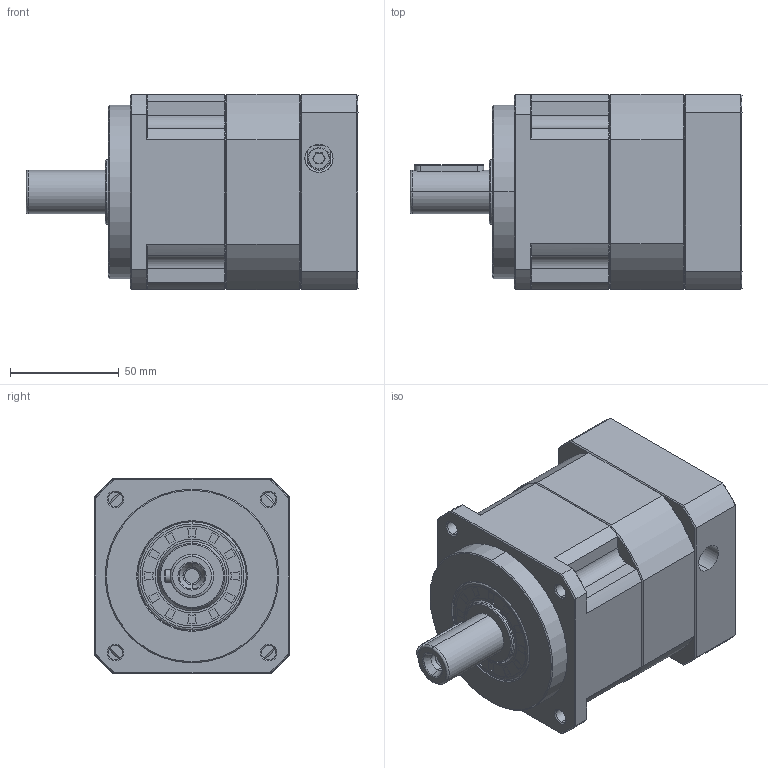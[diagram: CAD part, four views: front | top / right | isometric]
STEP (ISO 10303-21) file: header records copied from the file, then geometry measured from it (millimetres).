
FILE_DESCRIPTION (( 'STEP AP214' ), '1' );
FILE_NAME ('ZPB090-D20-L1-P1-19-70-90-M6.step', '2024-06-07T18:13:49', ( 'Windows 蚚誧' ), ( 'Organization' ), 'SwSTEP 2.0', 'SolidWorks 2016', '' );
FILE_SCHEMA (( 'AUTOMOTIVE_DESIGN' ));
Length unit declared in the file: millimetre
Products named in the file (1): ZPB090-D20-L1-P1-19-70-90-M6
Bounding box: 153 x 90 x 90 mm (x, y, z)
Surface area: 77151.2 mm2 (no closed solid volume)
Topology: 0 solids, 35 shells, 1820 faces, 4871 edges, 3114 vertices
Faces by surface type: plane 936, bspline 388, cone 276, cylinder 218, torus 2
Full cylindrical faces by diameter (mm): 6.72 x1
Entity records: 94969 total; most frequent: CARTESIAN_POINT 47733, ORIENTED_EDGE 9693, DIRECTION 7469, EDGE_CURVE 4866, VECTOR 3203, LINE 3203, VERTEX_POINT 3112, AXIS2_PLACEMENT_3D 2133
